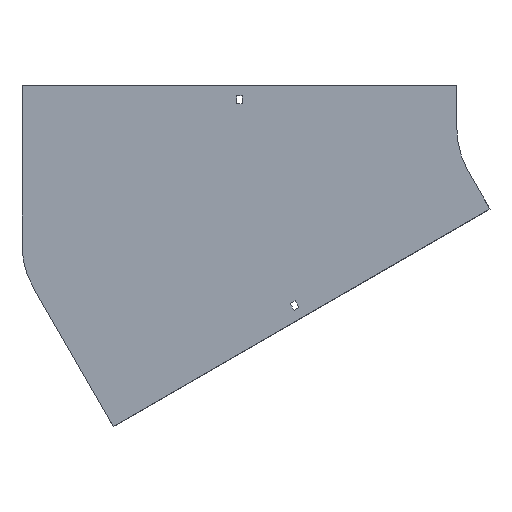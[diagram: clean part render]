
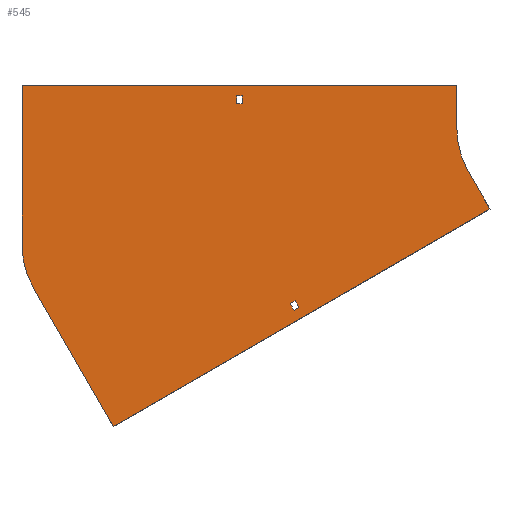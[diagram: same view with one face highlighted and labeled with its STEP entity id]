
A CAD part, front view. The second image highlights one B-rep face of the part: STEP entity #545.
In plain terms, the highlighted planar face has unit normal (0, -1, 0).
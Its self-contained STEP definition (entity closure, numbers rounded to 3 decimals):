
#17 = EDGE_CURVE ( 'NONE', #695, #1269, #1801, .T. ) ;
#18 = ORIENTED_EDGE ( 'NONE', *, *, #1407, .T. ) ;
#31 = LINE ( 'NONE', #752, #162 ) ;
#43 = VERTEX_POINT ( 'NONE', #1337 ) ;
#49 = CARTESIAN_POINT ( 'NONE',  ( -293.156, 0., -202.74 ) ) ;
#62 = EDGE_LOOP ( 'NONE', ( #1824, #1742, #1529, #18 ) ) ;
#83 = ORIENTED_EDGE ( 'NONE', *, *, #628, .F. ) ;
#85 = EDGE_CURVE ( 'NONE', #798, #759, #1444, .T. ) ;
#102 = CARTESIAN_POINT ( 'NONE',  ( -604., 0., -135.046 ) ) ;
#141 = ORIENTED_EDGE ( 'NONE', *, *, #1611, .F. ) ;
#142 = VERTEX_POINT ( 'NONE', #1534 ) ;
#147 = DIRECTION ( 'NONE',  ( -0.866, 0., -0.5 ) ) ;
#154 = DIRECTION ( 'NONE',  ( 0.5, 0., -0.866 ) ) ;
#157 = LINE ( 'NONE', #1523, #583 ) ;
#162 = VECTOR ( 'NONE', #1381, 1000. ) ;
#170 = CARTESIAN_POINT ( 'NONE',  ( 0., 0., 0. ) ) ;
#225 = LINE ( 'NONE', #525, #1413 ) ;
#226 = CARTESIAN_POINT ( 'NONE',  ( -355.25, 0., 38. ) ) ;
#227 = LINE ( 'NONE', #997, #939 ) ;
#257 = VECTOR ( 'NONE', #819, 1000. ) ;
#281 = VERTEX_POINT ( 'NONE', #226 ) ;
#307 = CARTESIAN_POINT ( 'NONE',  ( -86.603, 0., -50. ) ) ;
#312 = VERTEX_POINT ( 'NONE', #1865 ) ;
#343 = ORIENTED_EDGE ( 'NONE', *, *, #358, .F. ) ;
#353 = EDGE_LOOP ( 'NONE', ( #343, #493, #1059, #354 ) ) ;
#354 = ORIENTED_EDGE ( 'NONE', *, *, #693, .F. ) ;
#358 = EDGE_CURVE ( 'NONE', #759, #1427, #490, .T. ) ;
#366 = ORIENTED_EDGE ( 'NONE', *, *, #17, .F. ) ;
#377 = VECTOR ( 'NONE', #1124, 1000. ) ;
#392 = DIRECTION ( 'NONE',  ( 0., 0., 1. ) ) ;
#413 = VECTOR ( 'NONE', #744, 1000. ) ;
#423 = ORIENTED_EDGE ( 'NONE', *, *, #1218, .F. ) ;
#424 = CIRCLE ( 'NONE', #1685, 100. ) ;
#450 = CARTESIAN_POINT ( 'NONE',  ( -61.603, 0., -93.301 ) ) ;
#451 = DIRECTION ( 'NONE',  ( 1., 0., 0. ) ) ;
#460 = CARTESIAN_POINT ( 'NONE',  ( 0., 0., 0. ) ) ;
#490 = LINE ( 'NONE', #1852, #670 ) ;
#493 = ORIENTED_EDGE ( 'NONE', *, *, #85, .F. ) ;
#513 = CARTESIAN_POINT ( 'NONE',  ( -283.026, 0., -207.284 ) ) ;
#525 = CARTESIAN_POINT ( 'NONE',  ( -61.603, 0., -93.301 ) ) ;
#533 = CARTESIAN_POINT ( 'NONE',  ( -355.25, 0., 29. ) ) ;
#545 = ADVANCED_FACE ( 'NONE', ( #1533, #1374, #1066 ), #590, .T. ) ;
#582 = EDGE_CURVE ( 'NONE', #950, #1174, #157, .T. ) ;
#583 = VECTOR ( 'NONE', #763, 1000. ) ;
#590 = PLANE ( 'NONE',  #995 ) ;
#626 = CARTESIAN_POINT ( 'NONE',  ( -100., 0., 50. ) ) ;
#627 = CARTESIAN_POINT ( 'NONE',  ( -293.156, 0., -202.74 ) ) ;
#628 = EDGE_CURVE ( 'NONE', #1174, #1280, #424, .T. ) ;
#642 = EDGE_CURVE ( 'NONE', #312, #950, #1365, .T. ) ;
#666 = EDGE_CURVE ( 'NONE', #1152, #798, #1490, .T. ) ;
#667 = CARTESIAN_POINT ( 'NONE',  ( -590.603, 0., -185.046 ) ) ;
#670 = VECTOR ( 'NONE', #1840, 1000. ) ;
#693 = EDGE_CURVE ( 'NONE', #1427, #1152, #1102, .T. ) ;
#695 = VERTEX_POINT ( 'NONE', #667 ) ;
#720 = CARTESIAN_POINT ( 'NONE',  ( -498.079, 0., -345.301 ) ) ;
#739 = CARTESIAN_POINT ( 'NONE',  ( -86.603, 0., -50. ) ) ;
#744 = DIRECTION ( 'NONE',  ( 0.5, 0., -0.866 ) ) ;
#751 = LINE ( 'NONE', #739, #1369 ) ;
#752 = CARTESIAN_POINT ( 'NONE',  ( -348.75, 0., 29. ) ) ;
#759 = VERTEX_POINT ( 'NONE', #1692 ) ;
#763 = DIRECTION ( 'NONE',  ( 0., 0., -1. ) ) ;
#764 = CARTESIAN_POINT ( 'NONE',  ( -604., 0., -135.046 ) ) ;
#772 = DIRECTION ( 'NONE',  ( 0., -1., 0. ) ) ;
#781 = DIRECTION ( 'NONE',  ( 0., 0., -1. ) ) ;
#798 = VERTEX_POINT ( 'NONE', #49 ) ;
#802 = DIRECTION ( 'NONE',  ( -0.866, 0., -0.5 ) ) ;
#819 = DIRECTION ( 'NONE',  ( -1., 0., 0. ) ) ;
#849 = DIRECTION ( 'NONE',  ( 0., 0., 1. ) ) ;
#855 = CARTESIAN_POINT ( 'NONE',  ( -100., 0., 0. ) ) ;
#880 = CARTESIAN_POINT ( 'NONE',  ( -348.75, 0., 38. ) ) ;
#906 = VECTOR ( 'NONE', #147, 1000. ) ;
#915 = VERTEX_POINT ( 'NONE', #880 ) ;
#922 = DIRECTION ( 'NONE',  ( 0., 0., 1. ) ) ;
#939 = VECTOR ( 'NONE', #988, 1000. ) ;
#950 = VERTEX_POINT ( 'NONE', #626 ) ;
#988 = DIRECTION ( 'NONE',  ( 1., 0., 0. ) ) ;
#995 = AXIS2_PLACEMENT_3D ( 'NONE', #460, #1819, #1829 ) ;
#997 = CARTESIAN_POINT ( 'NONE',  ( -355.25, 0., 38. ) ) ;
#1015 = EDGE_CURVE ( 'NONE', #1280, #1925, #751, .T. ) ;
#1025 = LINE ( 'NONE', #1207, #1731 ) ;
#1042 = LINE ( 'NONE', #102, #1322 ) ;
#1051 = ORIENTED_EDGE ( 'NONE', *, *, #582, .F. ) ;
#1059 = ORIENTED_EDGE ( 'NONE', *, *, #666, .F. ) ;
#1066 = FACE_BOUND ( 'NONE', #353, .T. ) ;
#1086 = ORIENTED_EDGE ( 'NONE', *, *, #1015, .F. ) ;
#1101 = EDGE_CURVE ( 'NONE', #281, #915, #227, .T. ) ;
#1102 = LINE ( 'NONE', #1121, #1239 ) ;
#1118 = LINE ( 'NONE', #533, #257 ) ;
#1121 = CARTESIAN_POINT ( 'NONE',  ( -287.526, 0., -199.49 ) ) ;
#1124 = DIRECTION ( 'NONE',  ( -0.5, 0., 0.866 ) ) ;
#1144 = CARTESIAN_POINT ( 'NONE',  ( -504., 0., -135.046 ) ) ;
#1152 = VERTEX_POINT ( 'NONE', #1463 ) ;
#1174 = VERTEX_POINT ( 'NONE', #855 ) ;
#1202 = ORIENTED_EDGE ( 'NONE', *, *, #1784, .F. ) ;
#1207 = CARTESIAN_POINT ( 'NONE',  ( -355.25, 0., 29. ) ) ;
#1218 = EDGE_CURVE ( 'NONE', #1834, #695, #1582, .T. ) ;
#1239 = VECTOR ( 'NONE', #1400, 1000. ) ;
#1269 = VERTEX_POINT ( 'NONE', #764 ) ;
#1280 = VERTEX_POINT ( 'NONE', #307 ) ;
#1288 = EDGE_CURVE ( 'NONE', #43, #281, #1025, .T. ) ;
#1322 = VECTOR ( 'NONE', #849, 1000. ) ;
#1333 = CARTESIAN_POINT ( 'NONE',  ( -498.079, 0., -345.301 ) ) ;
#1337 = CARTESIAN_POINT ( 'NONE',  ( -355.25, 0., 29. ) ) ;
#1365 = LINE ( 'NONE', #1672, #1557 ) ;
#1369 = VECTOR ( 'NONE', #154, 1000. ) ;
#1374 = FACE_OUTER_BOUND ( 'NONE', #1822, .T. ) ;
#1381 = DIRECTION ( 'NONE',  ( 0., 0., -1. ) ) ;
#1400 = DIRECTION ( 'NONE',  ( -0.5, 0., 0.866 ) ) ;
#1407 = EDGE_CURVE ( 'NONE', #142, #43, #1118, .T. ) ;
#1413 = VECTOR ( 'NONE', #802, 1000. ) ;
#1427 = VERTEX_POINT ( 'NONE', #513 ) ;
#1444 = LINE ( 'NONE', #1464, #413 ) ;
#1463 = CARTESIAN_POINT ( 'NONE',  ( -287.526, 0., -199.49 ) ) ;
#1464 = CARTESIAN_POINT ( 'NONE',  ( -293.156, 0., -202.74 ) ) ;
#1490 = LINE ( 'NONE', #627, #906 ) ;
#1523 = CARTESIAN_POINT ( 'NONE',  ( -100., 0., 50. ) ) ;
#1529 = ORIENTED_EDGE ( 'NONE', *, *, #1933, .T. ) ;
#1533 = FACE_BOUND ( 'NONE', #62, .T. ) ;
#1534 = CARTESIAN_POINT ( 'NONE',  ( -348.75, 0., 29. ) ) ;
#1546 = AXIS2_PLACEMENT_3D ( 'NONE', #1144, #1741, #392 ) ;
#1557 = VECTOR ( 'NONE', #451, 1000. ) ;
#1582 = LINE ( 'NONE', #720, #377 ) ;
#1611 = EDGE_CURVE ( 'NONE', #1269, #312, #1042, .T. ) ;
#1672 = CARTESIAN_POINT ( 'NONE',  ( -604., 0., 50. ) ) ;
#1675 = ORIENTED_EDGE ( 'NONE', *, *, #642, .F. ) ;
#1685 = AXIS2_PLACEMENT_3D ( 'NONE', #170, #772, #781 ) ;
#1692 = CARTESIAN_POINT ( 'NONE',  ( -288.656, 0., -210.534 ) ) ;
#1731 = VECTOR ( 'NONE', #922, 1000. ) ;
#1741 = DIRECTION ( 'NONE',  ( 0., 1., 0. ) ) ;
#1742 = ORIENTED_EDGE ( 'NONE', *, *, #1101, .T. ) ;
#1784 = EDGE_CURVE ( 'NONE', #1925, #1834, #225, .T. ) ;
#1801 = CIRCLE ( 'NONE', #1546, 100. ) ;
#1819 = DIRECTION ( 'NONE',  ( 0., -1., 0. ) ) ;
#1822 = EDGE_LOOP ( 'NONE', ( #1675, #141, #366, #423, #1202, #1086, #83, #1051 ) ) ;
#1824 = ORIENTED_EDGE ( 'NONE', *, *, #1288, .T. ) ;
#1829 = DIRECTION ( 'NONE',  ( 0., 0., -1. ) ) ;
#1834 = VERTEX_POINT ( 'NONE', #1333 ) ;
#1840 = DIRECTION ( 'NONE',  ( 0.866, 0., 0.5 ) ) ;
#1852 = CARTESIAN_POINT ( 'NONE',  ( -288.656, 0., -210.534 ) ) ;
#1865 = CARTESIAN_POINT ( 'NONE',  ( -604., 0., 50. ) ) ;
#1925 = VERTEX_POINT ( 'NONE', #450 ) ;
#1933 = EDGE_CURVE ( 'NONE', #915, #142, #31, .T. ) ;
